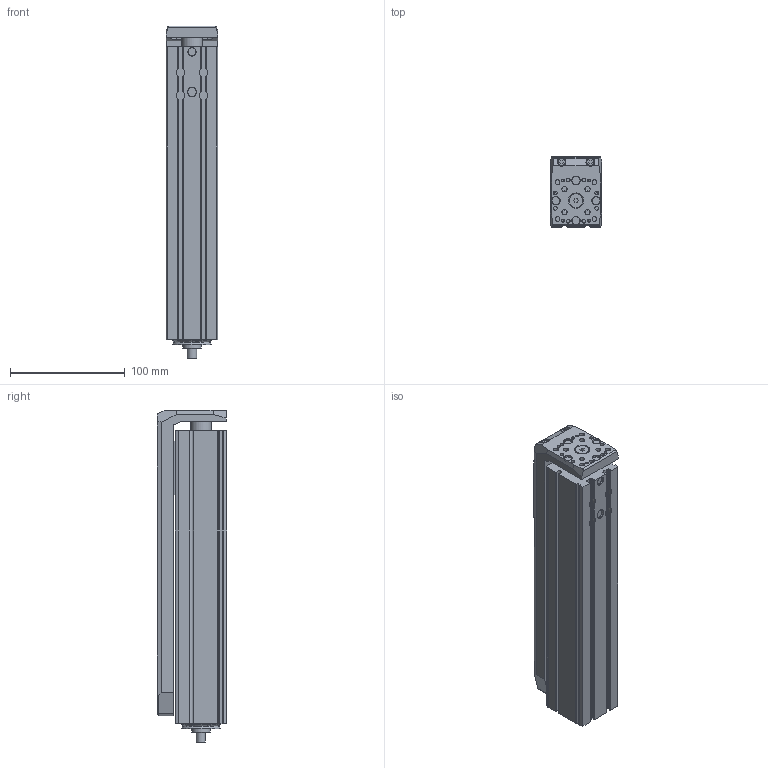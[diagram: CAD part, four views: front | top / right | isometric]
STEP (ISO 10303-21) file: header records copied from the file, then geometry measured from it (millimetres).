
FILE_DESCRIPTION(/* description */ ('STEP AP214'),/* implementation_level */ '2;1');
FILE_NAME(/* name */ 'MSCE 45 1010 175(0)',/* time_stamp */ '2023-10-09T11:32:12+02:00',/* author */ ('License CC BY-ND 4.0'),/* organization */ ('CADENAS'),/* preprocessor_version */ 'ST-DEVELOPER v19.3',/* originating_system */ 'PARTsolutions',/* authorisation */ ' ');
FILE_SCHEMA (('AUTOMOTIVE_DESIGN {1 0 10303 214 3 1 1}'));
Length unit declared in the file: millimetre
Products named in the file (3): MSCE 45 1010 175(0); 45(175)_prp; 45(175)_msce
Assembly tree (2 placements, depth 2):
  MSCE 45 1010 175(0)
    45(175)_prp
    45(175)_msce
Bounding box: 45 x 60.5 x 289 mm (x, y, z)
Volume: 527006.5 mm3; surface area: 151718.7 mm2
Topology: 2 solids, 2 shells, 436 faces, 1125 edges, 741 vertices
Faces by surface type: plane 208, cylinder 198, cone 23, torus 7
Full cylindrical faces by diameter (mm): 2.459 x8, 3.2 x8, 3.242 x8, 4 x2, 4.134 x4, 4.5 x4, 6 x8, 7 x7, 7.5 x4, 7.6 x2, 8 x1, 12 x1, 16 x1, 18 x2, 24 x1, 24.5 x1, 34 x2, 37.5 x2
Entity records: 14172 total; most frequent: CARTESIAN_POINT 2561, DIRECTION 2180, ORIENTED_EDGE 2034, EDGE_CURVE 1017, AXIS2_PLACEMENT_3D 825, VERTEX_POINT 729, FACE_BOUND 612, EDGE_LOOP 608
